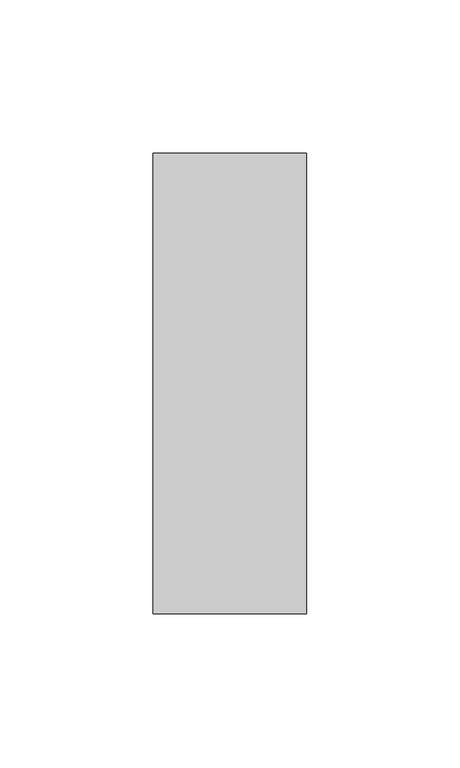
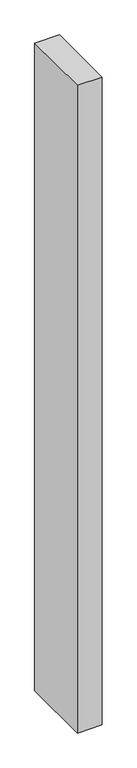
"""IFC4 building model written with IfcOpenShell, lengths in millimetres: member geometry, Прямоугольный импост : 50 x 150 мм."""

import ifcopenshell
import ifcopenshell.guid

model = None  # the IFC model being written
_history = None  # IfcOwnerHistory: only IFC2X3 demands one
_inside = {}  # id of a spatial element -> (the spatial element, [elements in it])
_under = {}  # id of a project, library or spatial element -> (it, [spatial elements below it])
_declared = {}  # id of a project -> (the project, [libraries it declares])
_typed = {}  # id of a type object -> (the type object, [elements of that type])
_made_of = {}  # id of a material, layer set ... -> (it, [elements and type objects made of it])


def new_model(schema):
    """Start an empty IFC model of exactly this schema.

    Asked for "IFC4X3", IfcOpenShell would pick the latest addendum, in which some entities
    have other attributes; the version numbers below select the first issue.
    IFC2X3 requires an IfcOwnerHistory on every rooted entity: one is made here for all.
    """
    global model, _history
    if schema == "IFC4X3":
        model = ifcopenshell.file(schema_version=(4, 3, 0, 0))
    else:
        model = ifcopenshell.file(schema=schema)
    _inside.clear()
    _under.clear()
    _declared.clear()
    _typed.clear()
    _made_of.clear()
    _history = None
    if model.schema == "IFC2X3":
        org = make("IfcOrganization", Name="unknown")
        user = make(
            "IfcPersonAndOrganization",
            ThePerson=make("IfcPerson", FamilyName="unknown"),
            TheOrganization=org,
        )
        app = make(
            "IfcApplication",
            ApplicationDeveloper=org,
            Version="unknown",
            ApplicationFullName="unknown",
            ApplicationIdentifier="unknown",
        )
        _history = make(
            "IfcOwnerHistory",
            OwningUser=user,
            OwningApplication=app,
            ChangeAction="ADDED",
            CreationDate=0,
        )
    return model


def make(cls, **values):
    """One entity of the class cls with the attributes given. An attribute that is None is left unset."""
    return model.create_entity(
        cls, **{name: value for name, value in values.items() if value is not None}
    )


def rooted(cls, **values):
    """An entity with a GlobalId (a new one), such as an element, a storey or a relation."""
    return make(cls, GlobalId=ifcopenshell.guid.new(), OwnerHistory=_history, **values)


def si_unit(unit_type, name, prefix=None):
    """IfcSIUnit, for example si_unit("LENGTHUNIT", "METRE", prefix="MILLI")."""
    return make("IfcSIUnit", UnitType=unit_type, Prefix=prefix, Name=name)


def assignment(units):
    """IfcUnitAssignment: the units of a project."""
    return None if units is None else make("IfcUnitAssignment", Units=units)


def point(xyz):
    """IfcCartesianPoint."""
    return None if xyz is None else make("IfcCartesianPoint", Coordinates=xyz)


def direction(xyz):
    """IfcDirection."""
    return None if xyz is None else make("IfcDirection", DirectionRatios=xyz)


def frame(location, z_axis=None, x_axis=None):
    """IfcAxis2Placement3D, a coordinate frame: its origin and axes. An axis left out is left unset."""
    return make(
        "IfcAxis2Placement3D",
        Location=point(location),
        Axis=direction(z_axis),
        RefDirection=direction(x_axis),
    )


def origin():
    """The frame at (0, 0, 0) with its axes left unset."""
    return frame((0.0, 0.0, 0.0))


def place(relative_to, where):
    """IfcLocalPlacement: puts the frame where relative to a parent placement (None: the world)."""
    return make(
        "IfcLocalPlacement", PlacementRelTo=relative_to, RelativePlacement=where
    )


def context(
    kind, dimensions, precision=None, world=None, true_north=None, identifier=None
):
    """IfcGeometricRepresentationContext, for example the 3D "Model" context."""
    return make(
        "IfcGeometricRepresentationContext",
        ContextIdentifier=identifier,
        ContextType=kind,
        CoordinateSpaceDimension=dimensions,
        Precision=precision,
        WorldCoordinateSystem=world,
        TrueNorth=true_north,
    )


def project(units=None, contexts=None):
    """IfcProject with its units and contexts."""
    return rooted(
        "IfcProject",
        Name="project",
        RepresentationContexts=contexts,
        UnitsInContext=assignment(units),
    )


def spatial(cls, under=None, at=None, **own):
    """A site, building, storey or space (cls), placed at a placement, below another one or the project."""
    s = rooted(cls, ObjectPlacement=at, **own)
    if under is not None:
        _under.setdefault(under.id(), (under, []))[1].append(s)
    return s


def polyline(points):
    """IfcPolyline through the points."""
    return make("IfcPolyline", Points=[point(p) for p in points])


def outline(outer, holes=None, kind="AREA"):
    """IfcArbitraryClosedProfileDef: a profile drawn as a closed curve; with holes, ...WithVoids."""
    if holes is None:
        return make("IfcArbitraryClosedProfileDef", ProfileType=kind, OuterCurve=outer)
    return make(
        "IfcArbitraryProfileDefWithVoids",
        ProfileType=kind,
        OuterCurve=outer,
        InnerCurves=holes,
    )


def extrude(swept, where, along, depth):
    """IfcExtrudedAreaSolid: the profile swept, set in the frame where, extruded along a direction by depth."""
    return make(
        "IfcExtrudedAreaSolid",
        SweptArea=swept,
        Position=where,
        ExtrudedDirection=direction(along),
        Depth=depth,
    )


def shape(context_of_items, identifier, shape_type, items):
    """IfcShapeRepresentation: the items that make up one representation, for example the "Body"."""
    return make(
        "IfcShapeRepresentation",
        ContextOfItems=context_of_items,
        RepresentationIdentifier=identifier,
        RepresentationType=shape_type,
        Items=items,
    )


def source(mapping_origin, context_of_items, identifier, shape_type, items):
    """IfcRepresentationMap: a shape defined once, which mapped items show again and again."""
    return make(
        "IfcRepresentationMap",
        MappingOrigin=mapping_origin,
        MappedRepresentation=shape(context_of_items, identifier, shape_type, items),
    )


def transform(
    local_origin,
    x_axis=None,
    y_axis=None,
    z_axis=None,
    scale=None,
    scale2=None,
    scale3=None,
    uniform=True,
):
    """IfcCartesianTransformationOperator3D, or its non-uniform kind. x_axis, y_axis, z_axis: its Axis1, 2, 3."""
    if uniform:
        return make(
            "IfcCartesianTransformationOperator3D",
            Axis1=direction(x_axis),
            Axis2=direction(y_axis),
            LocalOrigin=point(local_origin),
            Scale=scale,
            Axis3=direction(z_axis),
        )
    return make(
        "IfcCartesianTransformationOperator3DnonUniform",
        Axis1=direction(x_axis),
        Axis2=direction(y_axis),
        LocalOrigin=point(local_origin),
        Scale=scale,
        Axis3=direction(z_axis),
        Scale2=scale2,
        Scale3=scale3,
    )


def mapped(mapping_source, mapping_target):
    """IfcMappedItem: shows the shape of a source again, moved by a transform."""
    return make(
        "IfcMappedItem", MappingSource=mapping_source, MappingTarget=mapping_target
    )


def made_of(thing, what):
    """Note that an element or type object is made of a material, layer set ...; save() writes the relation."""
    if what is not None:
        _made_of.setdefault(what.id(), (what, []))[1].append(thing)
    return thing


def element(
    cls,
    number,
    at=None,
    inside=None,
    cuts=None,
    type_object=None,
    material=None,
    context=None,
    identifier="Body",
    shape_type=None,
    held_by="IfcProductDefinitionShape",
    body=None,
    shapes=None,
    **own,
):
    """One element of the class cls, such as IfcWall. Its Tag is "e" and its number.

    at: its placement. inside: the storey or other place that contains it. cuts: it is an
    opening in that element (IfcRelVoidsElement). A single representation is given by context,
    identifier, shape_type and body (its items); several are given by shapes. held_by: the class
    of the entity that holds the representations. save() writes the other relations.
    """
    e = rooted(cls, Tag="e%d" % number, ObjectPlacement=at, **own)
    if body is not None:
        shapes = [shape(context, identifier, shape_type, body)]
    if shapes is not None:
        e.Representation = make(held_by, Representations=shapes)
    if inside is not None:
        _inside.setdefault(inside.id(), (inside, []))[1].append(e)
    if cuts is not None:
        rooted(
            "IfcRelVoidsElement", RelatingBuildingElement=cuts, RelatedOpeningElement=e
        )
    if type_object is not None:
        _typed.setdefault(type_object.id(), (type_object, []))[1].append(e)
    return made_of(e, material)


def aggregate(whole, parts):
    """IfcRelAggregates: a whole, such as a stair, and the parts it consists of."""
    return rooted("IfcRelAggregates", RelatingObject=whole, RelatedObjects=parts)


def save(model, path):
    """Write the relations noted so far, then the file.

    IfcRelAggregates (storeys below a building ...), IfcRelContainedInSpatialStructure (elements
    in a storey), IfcRelDefinesByType, IfcRelAssociatesMaterial and IfcRelDeclares: one each for
    every whole, place, type object, material and project.
    """
    for whole, parts in _under.values():
        aggregate(whole, parts)
    for where, things in _inside.values():
        rooted(
            "IfcRelContainedInSpatialStructure",
            RelatedElements=things,
            RelatingStructure=where,
        )
    for kind, things in _typed.values():
        rooted("IfcRelDefinesByType", RelatedObjects=things, RelatingType=kind)
    for what, things in _made_of.values():
        rooted("IfcRelAssociatesMaterial", RelatedObjects=things, RelatingMaterial=what)
    for by, libraries in _declared.values():
        rooted("IfcRelDeclares", RelatingContext=by, RelatedDefinitions=libraries)
    model.write(path)


def member_a0a3ea27(model_context):
    return source(origin(), model_context, "Body", "SweptSolid", [
        extrude(outline(polyline([(25.0, 75.0), (25.0, -75.0), (-25.0, -75.0), (-25.0, 75.0), (25.0, 75.0)])), frame((0.0, 0.0, -1388.741671), z_axis=(0.0, 0.0, 1.0), x_axis=(1.0, 0.0, 0.0)), (0.0, 0.0, 1.0), 1388.741671),
    ])


if __name__ == "__main__":
    model = new_model("IFC4")
    model_context = context("Model", 3, world=origin())
    ifc_project = project(units=[si_unit("LENGTHUNIT", "METRE", prefix="MILLI")], contexts=[model_context])
    site = spatial("IfcSite", under=ifc_project)
    building = spatial("IfcBuilding", under=site)
    placement = place(None, origin())
    member_shape = member_a0a3ea27(model_context)
    element("IfcMember", 1, ObjectType="Прямоугольный импост : 50 x 150 мм", at=placement, inside=building, context=model_context, shape_type="MappedRepresentation", body=[
        mapped(member_shape, transform((0.0, 0.0, 0.0), x_axis=(1.0, 0.0, 0.0), y_axis=(0.0, 1.0, 0.0), z_axis=(0.0, 0.0, 1.0))),
    ])
    save(model, "model.ifc")
